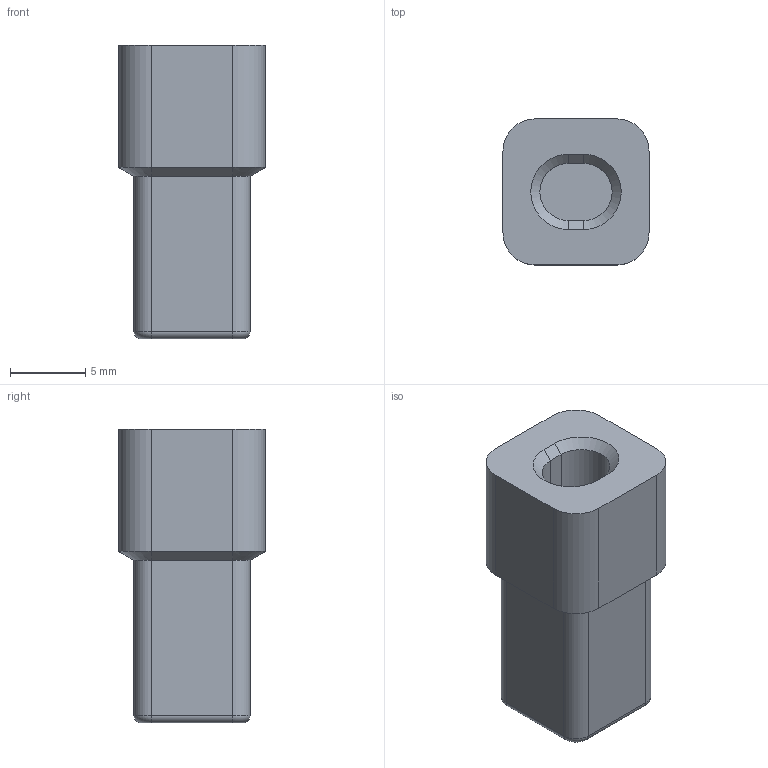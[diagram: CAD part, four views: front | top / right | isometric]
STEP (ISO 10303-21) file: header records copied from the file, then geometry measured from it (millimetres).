
FILE_DESCRIPTION(('Open CASCADE Model'),'2;1');
FILE_NAME('Open CASCADE Shape Model','2026-10-22T11:54:29',('Author'),( 'Open CASCADE'),'Open CASCADE STEP processor 7.8','Open CASCADE 7.8' ,'Unknown');
FILE_SCHEMA(('AUTOMOTIVE_DESIGN { 1 0 10303 214 1 1 1 1 }'));
Length unit declared in the file: millimetre
Products named in the file (3): enter-button-4mm-longer-flush-icon-60deg-shoulder; Button_body; Flush_icon
Assembly tree (2 placements, depth 2):
  enter-button-4mm-longer-flush-icon-60deg-shoulder
    Button_body
    Flush_icon
Bounding box: 9.7 x 9.7 x 19.5 mm (x, y, z)
Volume: 1319.6 mm3; surface area: 919.1 mm2
Topology: 2 solids, 2 shells, 192 faces, 524 edges, 340 vertices
Faces by surface type: plane 168, cylinder 14, cone 6, torus 4
Entity records: 12784 total; most frequent: CARTESIAN_POINT 2179, DIRECTION 1944, LINE 1478, VECTOR 1478, ORIENTED_EDGE 1048, PCURVE 1048, DEFINITIONAL_REPRESENTATION 1048, EDGE_CURVE 524
